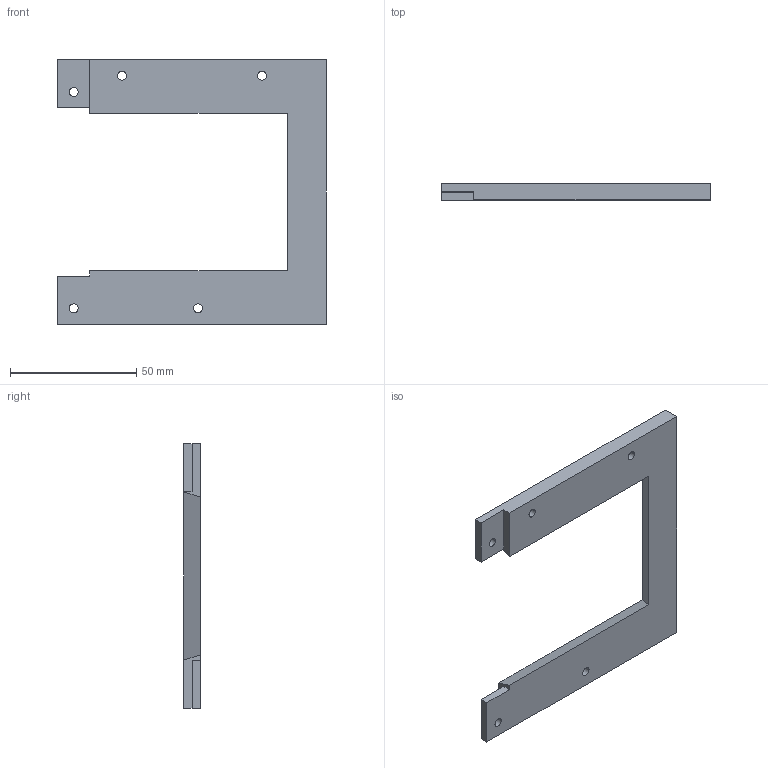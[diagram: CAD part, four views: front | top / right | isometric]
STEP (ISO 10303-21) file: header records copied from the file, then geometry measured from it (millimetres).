
FILE_DESCRIPTION((''),'2;1');
FILE_NAME('LASER_CLAMP','2016-03-15T',('Luke Baldwin'),(''),'CREO PARAMETRIC BY PTC INC, 2015380','CREO PARAMETRIC BY PTC INC, 2015380','');
FILE_SCHEMA(('CONFIG_CONTROL_DESIGN'));
Length unit declared in the file: inch
Products named in the file (1): LASER_CLAMP
Bounding box: 106.36 x 6.35 x 104.78 mm (x, y, z)
Volume: 30980.9 mm3; surface area: 14282.4 mm2
Topology: 1 solids, 1 shells, 26 faces, 71 edges, 47 vertices
Faces by surface type: plane 16, cylinder 10
Entity records: 887 total; most frequent: CARTESIAN_POINT 144, DIRECTION 143, ORIENTED_EDGE 142, EDGE_CURVE 71, VECTOR 51, LINE 51, VERTEX_POINT 47, AXIS2_PLACEMENT_3D 46
